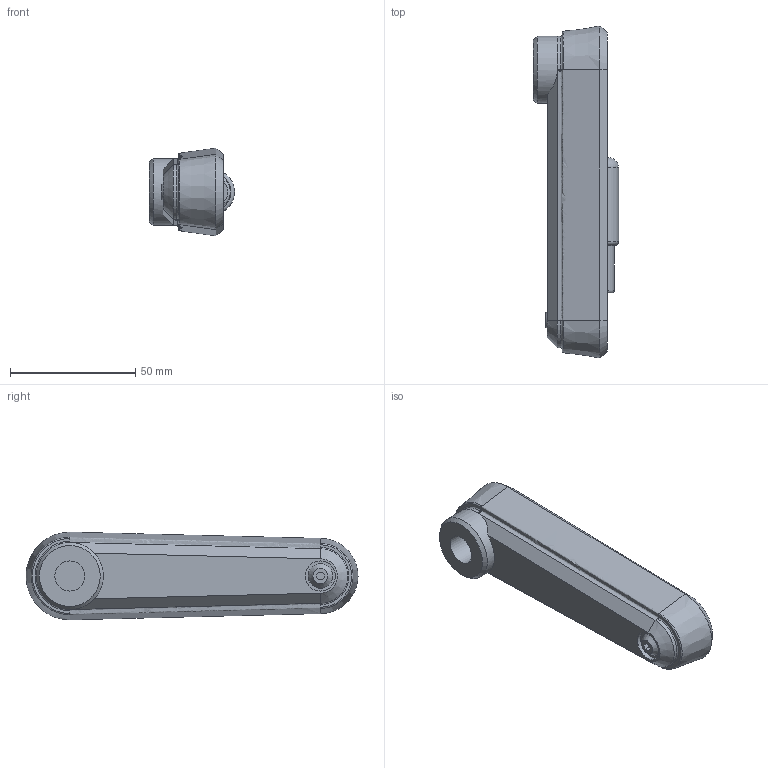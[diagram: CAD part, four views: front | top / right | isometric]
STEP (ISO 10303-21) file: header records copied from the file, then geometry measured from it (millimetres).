
FILE_DESCRIPTION( ( 'STEP AP203' ), '1' );
FILE_NAME( 'C:/Temp/Ganter_Step_05_03_2020/data/1_3/gn_472_3/Cranked handle with retractable handle GN 472.3-100-B12-SR (unactivated).stp', '2020-03-05T10:45:52', ( 'License CC BY-ND 4.0' ), ( 'CADENAS' ), ' ', 'PARTsolutions', ' ' );
FILE_SCHEMA( ( 'CONFIG_CONTROL_DESIGN' ) );
Length unit declared in the file: millimetre
Products named in the file (3): Cranked handle with retractable handle GN 472.3-100-B12-SR (unactivated); _Cranked handle with retractable handle GN 472.3-100-B12-SR (0)-1; _Cranked handle with retractable handle GN 472.3-100-B12-SR (0)-2
Assembly tree (2 placements, depth 2):
  Cranked handle with retractable handle GN 472.3-100-B12-SR (unactivated)
    _Cranked handle with retractable handle GN 472.3-100-B12-SR (0)-1
    _Cranked handle with retractable handle GN 472.3-100-B12-SR (0)-2
Bounding box: 34 x 132.5 x 35 mm (x, y, z)
Volume: 67492.4 mm3; surface area: 23741.1 mm2
Topology: 2 solids, 3 shells, 94 faces, 229 edges, 151 vertices
Faces by surface type: plane 42, cylinder 27, torus 12, cone 10, bspline 2, sphere 1
Full cylindrical faces by diameter (mm): 3 x2, 8 x1, 9.5 x1, 12 x2, 14.5 x1, 16.02 x1, 18 x1, 20 x2, 26.7 x1
Entity records: 2920 total; most frequent: CARTESIAN_POINT 721, DIRECTION 433, ORIENTED_EDGE 404, EDGE_CURVE 202, AXIS2_PLACEMENT_3D 179, VERTEX_POINT 146, EDGE_LOOP 129, FACE_OUTER_BOUND 112
